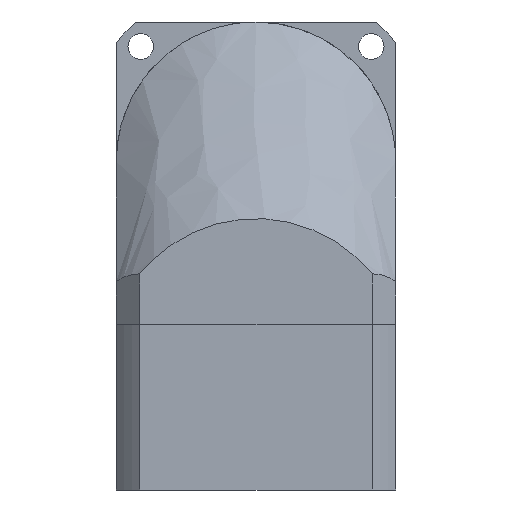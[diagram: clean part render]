
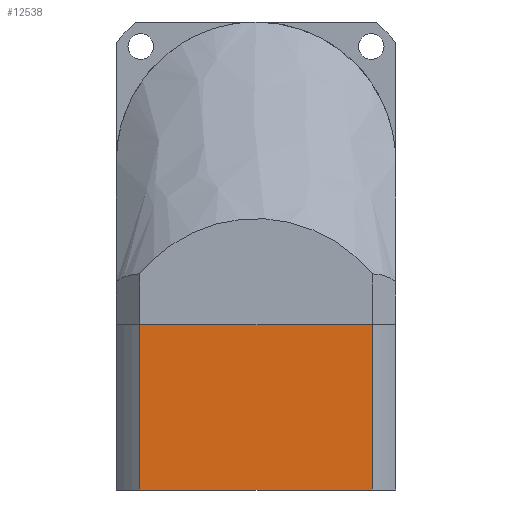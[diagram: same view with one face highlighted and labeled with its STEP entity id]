
A CAD part, front view. The second image highlights one B-rep face of the part: STEP entity #12538.
In plain terms, the highlighted planar face has unit normal (0, -1, 0).
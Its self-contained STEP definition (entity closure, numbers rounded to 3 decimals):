
#649 = AXIS2_PLACEMENT_3D ( 'NONE', #16443, #3954, #8808 ) ;
#988 = DIRECTION ( 'NONE',  ( -1., 0., 0. ) ) ;
#2704 = ORIENTED_EDGE ( 'NONE', *, *, #8731, .T. ) ;
#3954 = DIRECTION ( 'NONE',  ( 0., -1., 0. ) ) ;
#4383 = VERTEX_POINT ( 'NONE', #7494 ) ;
#5033 = VECTOR ( 'NONE', #10787, 1000. ) ;
#5776 = VECTOR ( 'NONE', #12394, 1000. ) ;
#6005 = ORIENTED_EDGE ( 'NONE', *, *, #15732, .F. ) ;
#6407 = DIRECTION ( 'NONE',  ( 0., 0., -1. ) ) ;
#7494 = CARTESIAN_POINT ( 'NONE',  ( 24.92, -30., -35.5 ) ) ;
#7535 = VERTEX_POINT ( 'NONE', #7934 ) ;
#7934 = CARTESIAN_POINT ( 'NONE',  ( -24.92, -30., -35.5 ) ) ;
#8731 = EDGE_CURVE ( 'NONE', #15464, #14135, #15448, .T. ) ;
#8808 = DIRECTION ( 'NONE',  ( 0., 0., -1. ) ) ;
#8883 = PLANE ( 'NONE',  #649 ) ;
#10787 = DIRECTION ( 'NONE',  ( 1., 0., 0. ) ) ;
#11509 = EDGE_LOOP ( 'NONE', ( #15277, #18295, #6005, #2704 ) ) ;
#12394 = DIRECTION ( 'NONE',  ( 0., 0., -1. ) ) ;
#12400 = LINE ( 'NONE', #18663, #19871 ) ;
#12538 = ADVANCED_FACE ( 'NONE', ( #17518 ), #8883, .T. ) ;
#13258 = LINE ( 'NONE', #13867, #5033 ) ;
#13539 = VECTOR ( 'NONE', #988, 1000. ) ;
#13867 = CARTESIAN_POINT ( 'NONE',  ( 0., -30., -35.5 ) ) ;
#14135 = VERTEX_POINT ( 'NONE', #18936 ) ;
#15277 = ORIENTED_EDGE ( 'NONE', *, *, #18610, .T. ) ;
#15423 = LINE ( 'NONE', #15525, #5776 ) ;
#15448 = LINE ( 'NONE', #16342, #13539 ) ;
#15464 = VERTEX_POINT ( 'NONE', #19506 ) ;
#15525 = CARTESIAN_POINT ( 'NONE',  ( -24.92, -30., -35.5 ) ) ;
#15732 = EDGE_CURVE ( 'NONE', #15464, #4383, #12400, .T. ) ;
#16342 = CARTESIAN_POINT ( 'NONE',  ( 0., -30., 0. ) ) ;
#16443 = CARTESIAN_POINT ( 'NONE',  ( -30., -30., -35.5 ) ) ;
#17518 = FACE_OUTER_BOUND ( 'NONE', #11509, .T. ) ;
#18295 = ORIENTED_EDGE ( 'NONE', *, *, #19264, .T. ) ;
#18610 = EDGE_CURVE ( 'NONE', #14135, #7535, #15423, .T. ) ;
#18663 = CARTESIAN_POINT ( 'NONE',  ( 24.92, -30., 0. ) ) ;
#18936 = CARTESIAN_POINT ( 'NONE',  ( -24.92, -30., 0. ) ) ;
#19264 = EDGE_CURVE ( 'NONE', #7535, #4383, #13258, .T. ) ;
#19506 = CARTESIAN_POINT ( 'NONE',  ( 24.92, -30., 0. ) ) ;
#19871 = VECTOR ( 'NONE', #6407, 1000. ) ;
